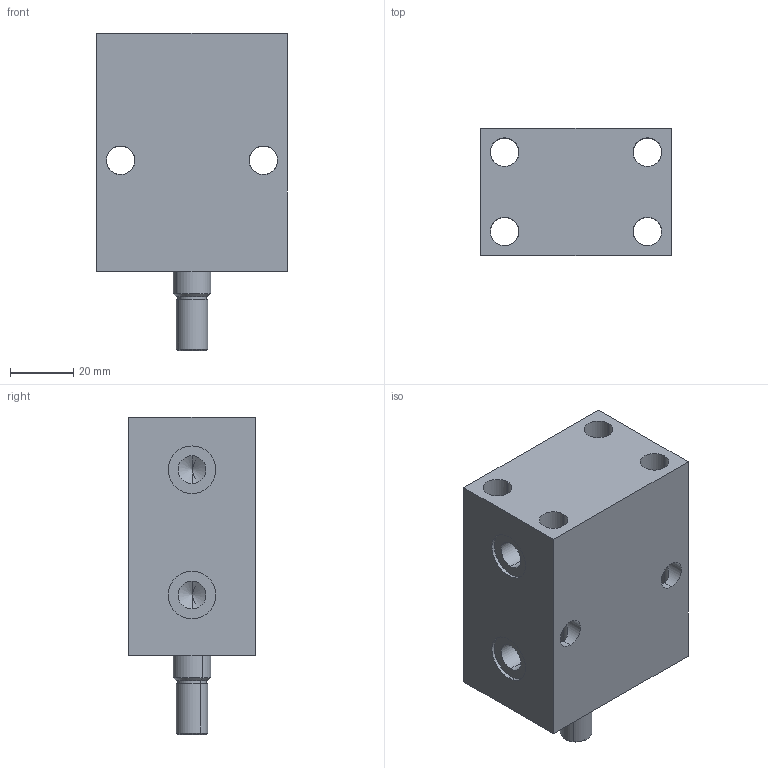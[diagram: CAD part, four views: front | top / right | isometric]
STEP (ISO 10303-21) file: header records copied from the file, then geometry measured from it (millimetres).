
FILE_DESCRIPTION (( 'STEP AP203' ), '1' );
FILE_NAME ('Block cylinder B01C-025M.STEP', '2022-07-09T17:54:46', ( '' ), ( '' ), 'SwSTEP 2.0', 'SolidWorks 2017', '' );
FILE_SCHEMA (( 'CONFIG_CONTROL_DESIGN' ));
Length unit declared in the file: millimetre
Products named in the file (3): Body_025M; Piston_025M; Block cylinder B01C-025M
Assembly tree (2 placements, depth 2):
  Block cylinder B01C-025M
    Body_025M
    Piston_025M
Bounding box: 60 x 40 x 100 mm (x, y, z)
Volume: 156860 mm3; surface area: 33643.9 mm2
Topology: 2 solids, 2 shells, 352 faces, 958 edges, 626 vertices
Faces by surface type: bspline 156, plane 142, cylinder 46, cone 8
Entity records: 17703 total; most frequent: CARTESIAN_POINT 9621, ORIENTED_EDGE 1908, DIRECTION 1076, EDGE_CURVE 954, VERTEX_POINT 626, LINE 546, VECTOR 546, EDGE_LOOP 392
